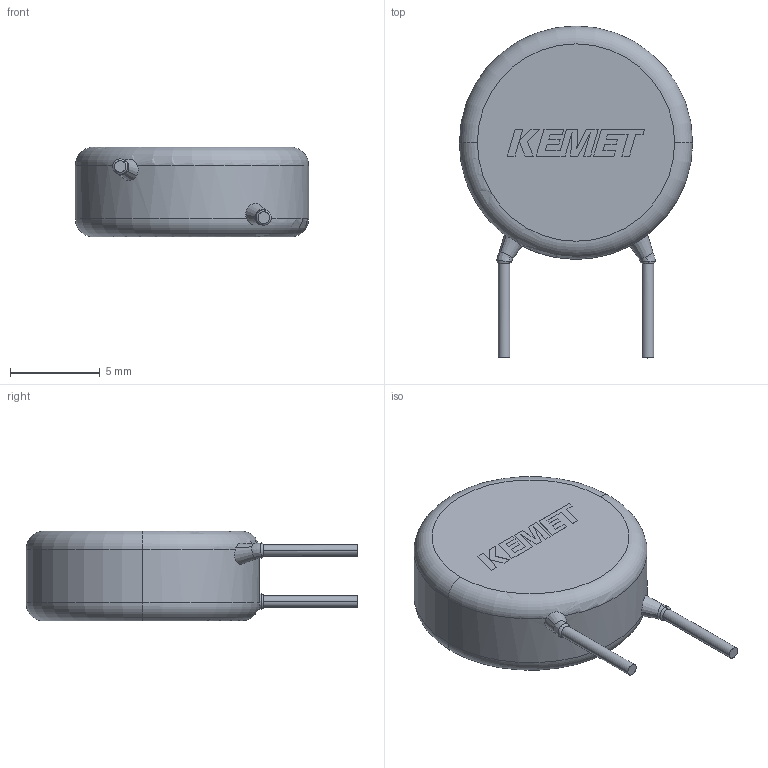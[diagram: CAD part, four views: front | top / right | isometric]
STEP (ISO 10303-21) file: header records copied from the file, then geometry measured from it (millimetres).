
FILE_DESCRIPTION (( 'STEP AP214' ), '1' );
FILE_NAME ('CCD_STC900_D13T5S8.5LL5.5F0.65G3.STEP', '2017-03-06T21:02:50', ( '' ), ( '' ), 'SwSTEP 2.0', 'SolidWorks 2014', '' );
FILE_SCHEMA (( 'AUTOMOTIVE_DESIGN' ));
Length unit declared in the file: millimetre
Products named in the file (1): CCD_STC900_D13T5S8.5LL5.5F0.65G3
Bounding box: 13 x 18.5 x 5 mm (x, y, z)
Volume: 652.3 mm3; surface area: 475.9 mm2
Topology: 4 solids, 4 shells, 83 faces, 221 edges, 146 vertices
Faces by surface type: plane 61, bspline 8, cylinder 6, cone 4, torus 4
Entity records: 3899 total; most frequent: CARTESIAN_POINT 887, ORIENTED_EDGE 442, DIRECTION 391, EDGE_CURVE 221, LINE 163, VECTOR 163, VERTEX_POINT 146, AXIS2_PLACEMENT_3D 114
